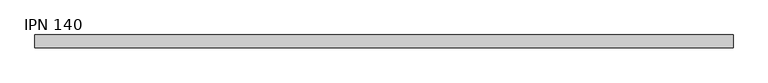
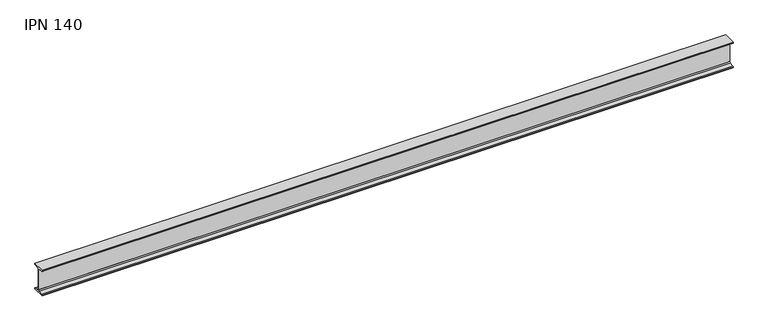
"""IFC4 building model written with IfcOpenShell, lengths in millimetres: beam geometry, IPN - Secciones en I con alas cónicas : IPN 140."""

from ifc_helpers import new_model, si_unit, point, frame, frame_2d, origin, place, context, project, spatial, polyline, circle_curve, trimmed, segment, composite_curve, outline, extrude, source, transform, mapped, element, save


def ipn_140_c6567682(model_context):
    return source(origin(), model_context, "Body", "SweptSolid", [
        extrude(outline(composite_curve([segment(polyline([(33.0, 70.0), (33.0, 66.6671583)]), True, "CONTINUOUS"), segment(trimmed(circle_curve(frame_2d((29.6, 66.6671583)), 3.4), [point((33.0, 66.6671583))], [point((30.0714027, 63.2999964))], False, "CARTESIAN"), True, "CONTINUOUS"), segment(polyline([(30.0714027, 63.2999964), (7.7597073, 60.176359)]), True, "CONTINUOUS"), segment(trimmed(circle_curve(frame_2d((8.55, 54.5314111)), 5.7), [point((7.7597073, 60.176359))], [point((2.85, 54.5314111))], True, "CARTESIAN"), True, "CONTINUOUS"), segment(polyline([(2.85, 54.5314111), (2.85, -54.5314111)]), True, "CONTINUOUS"), segment(trimmed(circle_curve(frame_2d((8.55, -54.5314111)), 5.7), [point((2.85, -54.5314111))], [point((7.7597073, -60.176359))], True, "CARTESIAN"), True, "CONTINUOUS"), segment(polyline([(7.7597073, -60.176359), (30.0714027, -63.2999964)]), True, "CONTINUOUS"), segment(trimmed(circle_curve(frame_2d((29.6, -66.6671583)), 3.4), [point((30.0714027, -63.2999964))], [point((33.0, -66.6671583))], False, "CARTESIAN"), True, "CONTINUOUS"), segment(polyline([(33.0, -66.6671583), (33.0, -70.0), (-33.0, -70.0), (-33.0, -66.6671583)]), True, "CONTINUOUS"), segment(trimmed(circle_curve(frame_2d((-29.6, -66.6671583)), 3.4), [point((-33.0, -66.6671583))], [point((-30.0714027, -63.2999964))], False, "CARTESIAN"), True, "CONTINUOUS"), segment(polyline([(-30.0714027, -63.2999964), (-7.7597073, -60.176359)]), True, "CONTINUOUS"), segment(trimmed(circle_curve(frame_2d((-8.55, -54.5314111)), 5.7), [point((-7.7597073, -60.176359))], [point((-2.85, -54.5314111))], True, "CARTESIAN"), True, "CONTINUOUS"), segment(polyline([(-2.85, -54.5314111), (-2.85, 54.5314111)]), True, "CONTINUOUS"), segment(trimmed(circle_curve(frame_2d((-8.55, 54.5314111)), 5.7), [point((-2.85, 54.5314111))], [point((-7.7597073, 60.176359))], True, "CARTESIAN"), True, "CONTINUOUS"), segment(polyline([(-7.7597073, 60.176359), (-30.0714027, 63.2999964)]), True, "CONTINUOUS"), segment(trimmed(circle_curve(frame_2d((-29.6, 66.6671583)), 3.4), [point((-30.0714027, 63.2999964))], [point((-33.0, 66.6671583))], False, "CARTESIAN"), True, "CONTINUOUS"), segment(polyline([(-33.0, 66.6671583), (-33.0, 70.0), (33.0, 70.0)]), True, "CONTINUOUS")], self_intersect=False)), frame((-1850.0, 0.0, 0.0), z_axis=(1.0, 0.0, 0.0), x_axis=(0.0, 1.0, 0.0)), (0.0, 0.0, 1.0), 3591.0),
    ])


if __name__ == "__main__":
    model = new_model("IFC4")
    model_context = context("Model", 3, world=origin())
    ifc_project = project(units=[si_unit("LENGTHUNIT", "METRE", prefix="MILLI")], contexts=[model_context])
    site = spatial("IfcSite", under=ifc_project)
    building = spatial("IfcBuilding", under=site)
    placement = place(None, origin())
    ipn_140_shape = ipn_140_c6567682(model_context)
    element("IfcBeam", 1, ObjectType="IPN - Secciones en I con alas cónicas : IPN 140", at=placement, inside=building, context=model_context, shape_type="MappedRepresentation", body=[
        mapped(ipn_140_shape, transform((0.0, 0.0, 0.0), x_axis=(1.0, 0.0, 0.0), y_axis=(0.0, 1.0, 0.0), z_axis=(0.0, 0.0, 1.0))),
    ])
    save(model, "model.ifc")
